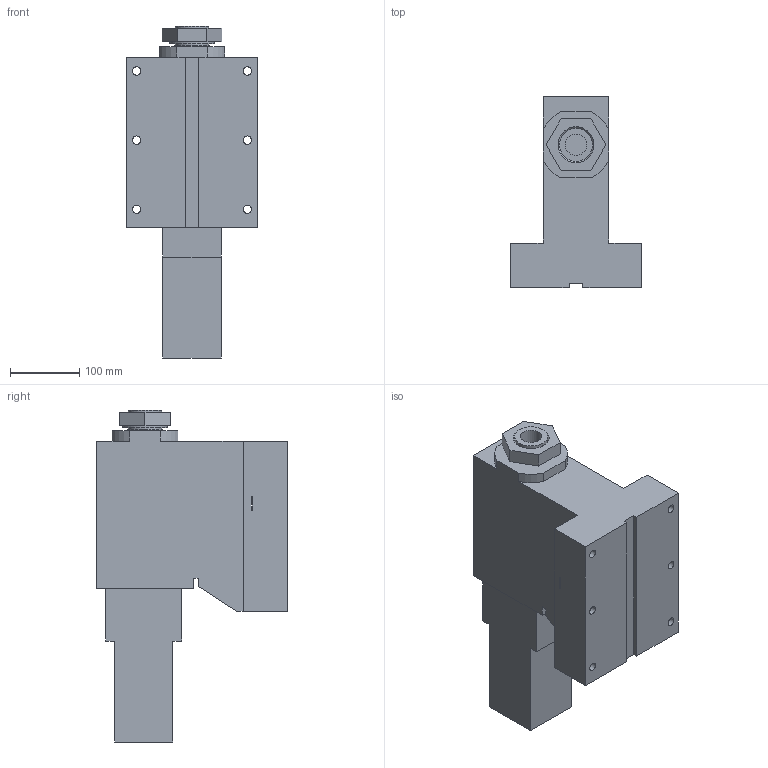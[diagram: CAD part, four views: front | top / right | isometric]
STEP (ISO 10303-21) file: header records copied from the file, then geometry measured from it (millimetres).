
FILE_DESCRIPTION((''),'2;1');
FILE_NAME('C:\VaultWork\Zeichnungen\Maßblätter\Reitstock\RS01365-3-0 Maßblatt Reitstock MK4 pneum. Betätigt.stp','2009-03-27T15:24:09',('Test'),(''),'Autodesk Inventor 2008','Autodesk Inventor 2008','');
FILE_SCHEMA(('AUTOMOTIVE_DESIGN { 1 0 10303 214 1 1 1 1 }'));
Length unit declared in the file: millimetre
Products named in the file (1): RS01365-3-0 Maßblatt Reitstock MK4 pneum. Betätigt
Bounding box: 190 x 276 x 480 mm (x, y, z)
Volume: 9132651 mm3; surface area: 413003.7 mm2
Topology: 1 solids, 1 shells, 90 faces, 213 edges, 142 vertices
Faces by surface type: plane 55, bspline 24, cylinder 9, cone 2
Full cylindrical faces by diameter (mm): 31 x1, 48 x2, 50 x1, 65 x1
Entity records: 2817 total; most frequent: CARTESIAN_POINT 715, ORIENTED_EDGE 376, DIRECTION 374, EDGE_CURVE 188, EDGE_LOOP 144, VERTEX_POINT 140, VECTOR 136, LINE 136
